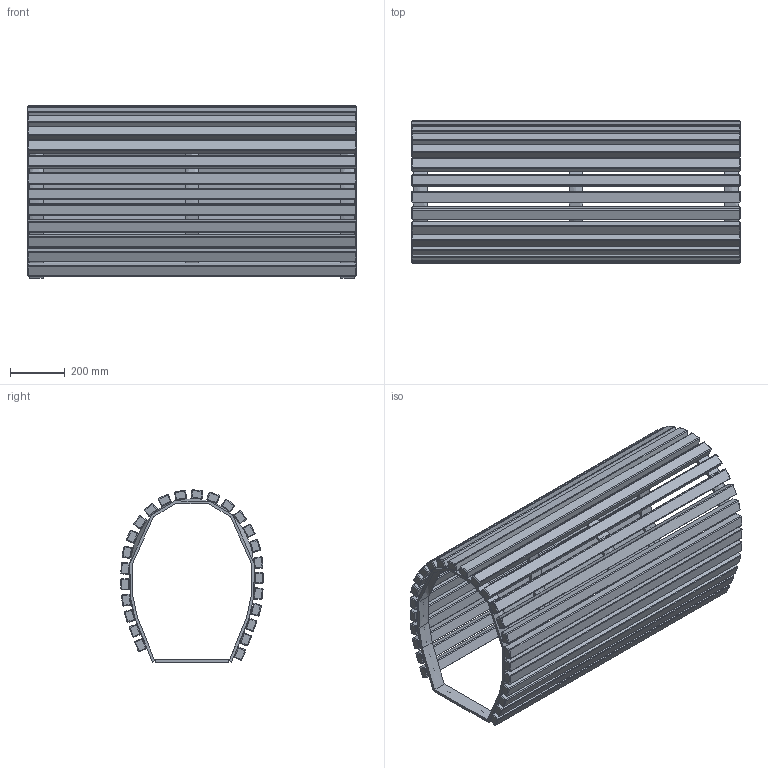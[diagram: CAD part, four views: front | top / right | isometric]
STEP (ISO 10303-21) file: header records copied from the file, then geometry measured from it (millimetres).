
FILE_DESCRIPTION(/* description */ (''),/* implementation_level */ '2;1');
FILE_NAME(/* name */ 'ENV02-C2_UAP_ENVIRON_Bench_3D',/* time_stamp */ '2018-01-23T20:56:56-05:00',/* author */ (''),/* organization */ (''),/* preprocessor_version */ 'ST-DEVELOPER v15',/* originating_system */ '',/* authorisation */ '');
FILE_SCHEMA (('AUTOMOTIVE_DESIGN'));
Length unit declared in the file: millimetre
Products named in the file (1): Document
Bounding box: 1200 x 520 x 629.99 mm (x, y, z)
Volume: 40606604.8 mm3; surface area: 4839799.6 mm2
Topology: 30 solids, 30 shells, 902 faces, 2133 edges, 1084 vertices
Faces by surface type: bspline 780, plane 122
Entity records: 33566 total; most frequent: CARTESIAN_POINT 22170, ORIENTED_EDGE 3864, EDGE_CURVE 1932, VERTEX_POINT 1084, EDGE_LOOP 1054, ADVANCED_FACE 902, FACE_OUTER_BOUND 902, B_SPLINE_CURVE_WITH_KNOTS 571
